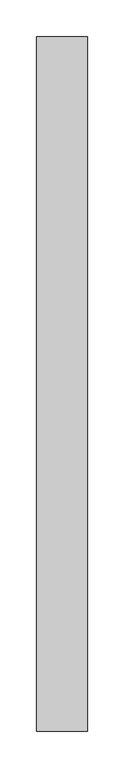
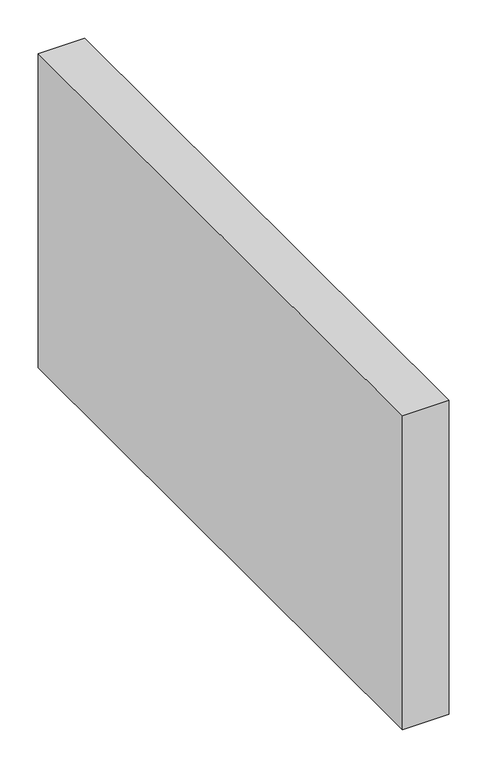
"""IFC4 building model written with IfcOpenShell, lengths in millimetres: proxy geometry, Installationsrahmen_70mm_2025-07-23."""

from ifc_helpers import new_model, si_unit, frame, origin, place, context, project, spatial, polyline, outline, extrude, source, transform, mapped, element, save


def generic_models_6e9d71cf(model_context):
    return source(origin(), model_context, "Body", "SweptSolid", [
        extrude(outline(polyline([(0.0, 0.0), (0.0, 950.5), (70.0, 950.5), (70.0, 0.0), (0.0, 0.0)])), frame((0.0, 0.0, -500.0), z_axis=(0.0, 0.0, 1.0), x_axis=(1.0, 0.0, 0.0)), (0.0, 0.0, 1.0), 500.0),
    ])


if __name__ == "__main__":
    model = new_model("IFC4")
    model_context = context("Model", 3, world=origin())
    ifc_project = project(units=[si_unit("LENGTHUNIT", "METRE", prefix="MILLI")], contexts=[model_context])
    site = spatial("IfcSite", under=ifc_project)
    building = spatial("IfcBuilding", under=site)
    placement = place(None, origin())
    generic_models_shape = generic_models_6e9d71cf(model_context)
    element("IfcBuildingElementProxy", 1, Name="Installationsrahmen_70mm_2025-07-23", ObjectType="Installationsrahmen_70mm_2025-07-23", at=placement, inside=building, context=model_context, shape_type="MappedRepresentation", body=[
        mapped(generic_models_shape, transform((0.0, 0.0, 0.0), x_axis=(1.0, 0.0, 0.0), y_axis=(0.0, 1.0, 0.0), z_axis=(0.0, 0.0, 1.0))),
    ])
    save(model, "model.ifc")
